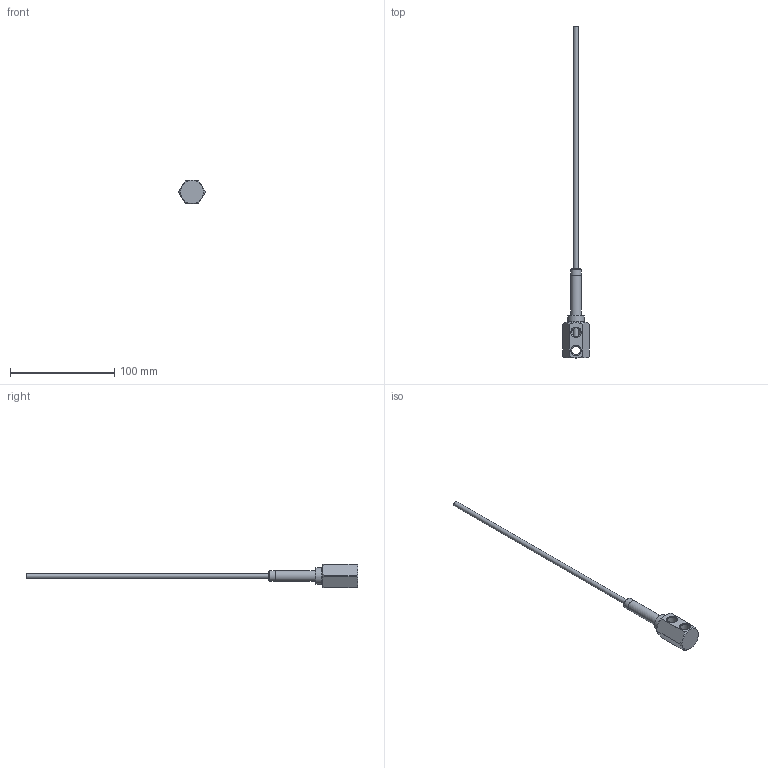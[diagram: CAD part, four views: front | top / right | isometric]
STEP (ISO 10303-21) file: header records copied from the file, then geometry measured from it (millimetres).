
FILE_DESCRIPTION(/* description */ (''),/* implementation_level */ '2;1');
FILE_NAME(/* name */ 'C:/Users/drich/Desktop/186N-HFT v1.step',/* time_stamp */ '2020-01-15T19:37:44-06:00',/* author */ (''),/* organization */ (''),/* preprocessor_version */ 'ST-DEVELOPER v18',/* originating_system */ 'Autodesk Translation Framework v8.12.0.6',/* authorisation */ '');
FILE_SCHEMA (('AUTOMOTIVE_DESIGN { 1 0 10303 214 3 1 1 }'));
Length unit declared in the file: inch
Products named in the file (4): 186N-HFT; 186H; SSPN18-2; HF187T-12
Assembly tree (3 placements, depth 2):
  186N-HFT
    186H
    SSPN18-2
    HF187T-12
Bounding box: 25.65 x 319.15 x 22.23 mm (x, y, z)
Volume: 16170.1 mm3; surface area: 16436.5 mm2
Topology: 3 solids, 3 shells, 66 faces, 180 edges, 124 vertices
Faces by surface type: cone 24, cylinder 20, plane 17, torus 5
Full cylindrical faces by diameter (mm): 4.242 x1, 4.75 x1, 5.474 x1, 6.243 x1, 6.401 x1, 6.833 x1, 8.707 x4, 10.262 x2, 10.312 x1, 15.875 x1
Entity records: 2329 total; most frequent: CARTESIAN_POINT 489, DIRECTION 394, ORIENTED_EDGE 360, EDGE_CURVE 180, AXIS2_PLACEMENT_3D 174, VERTEX_POINT 124, CIRCLE 99, EDGE_LOOP 80
